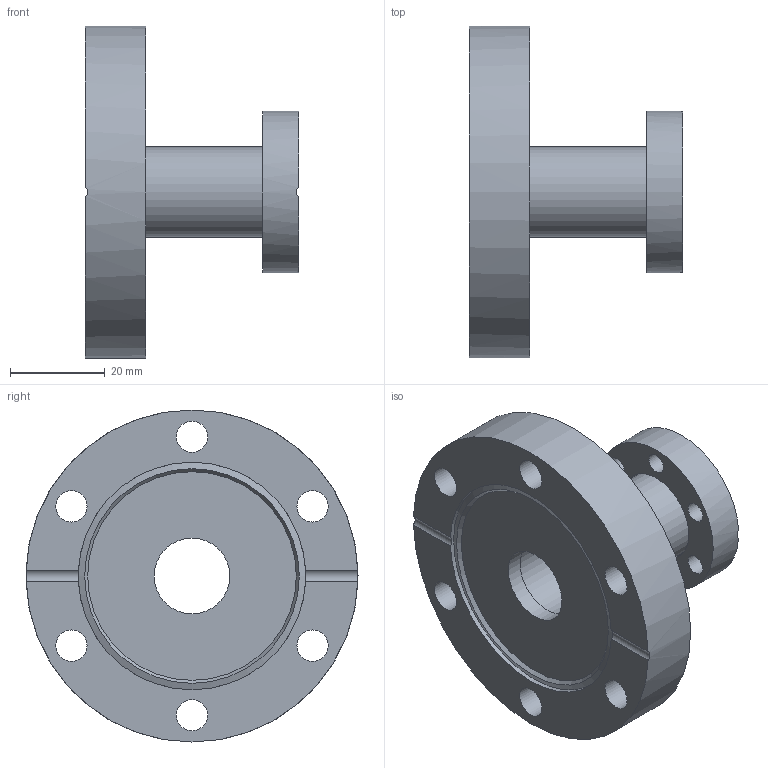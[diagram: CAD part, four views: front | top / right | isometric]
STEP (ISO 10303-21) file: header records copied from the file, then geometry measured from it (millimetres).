
FILE_DESCRIPTION( ( 'Unknown' ), '1' );
FILE_NAME( 'X:/Daten ( aktueller Bestand )/Projekte und Zeichnungen/Solid Edge/STP-Dateien/CF-Teile/7161R4.stp', 'Unknown', ( 'Unknown' ), ( 'Unknown' ), 'PSStep 14.0', 'Unknown', ' ' );
FILE_SCHEMA( ( 'AUTOMOTIVE_DESIGN { 1 0 10303 214 1 1 1 1 }' ) );
Length unit declared in the file: millimetre
Products named in the file (10): 7161R-1; 7161R-2; Assem1; 7161F-3; 7161F-1
Assembly tree (9 placements, depth 4):
  Assem1
    7161F-1
      7161F-1
    7161F-3
      7161F-3
    Assem1
      7161R-1
        7161R-1
      7161R-2
        7161R-2
Bounding box: 45 x 70 x 70 mm (x, y, z)
Volume: 48080.5 mm3; surface area: 20099.6 mm2
Topology: 4 solids, 4 shells, 46 faces, 116 edges, 80 vertices
Faces by surface type: cylinder 28, plane 14, cone 4
Full cylindrical faces by diameter (mm): 4.3 x6, 6.6 x6, 16 x2, 16.5 x1, 19 x1, 19.5 x3, 21 x1, 21.3 x1, 34 x1, 48 x1, 70 x1
Entity records: 1862 total; most frequent: CARTESIAN_POINT 301, DIRECTION 242, ORIENTED_EDGE 144, AXIS2_PLACEMENT_3D 117, EDGE_LOOP 108, EDGE_CURVE 72, FACE_OUTER_BOUND 70, VERTEX_POINT 64
